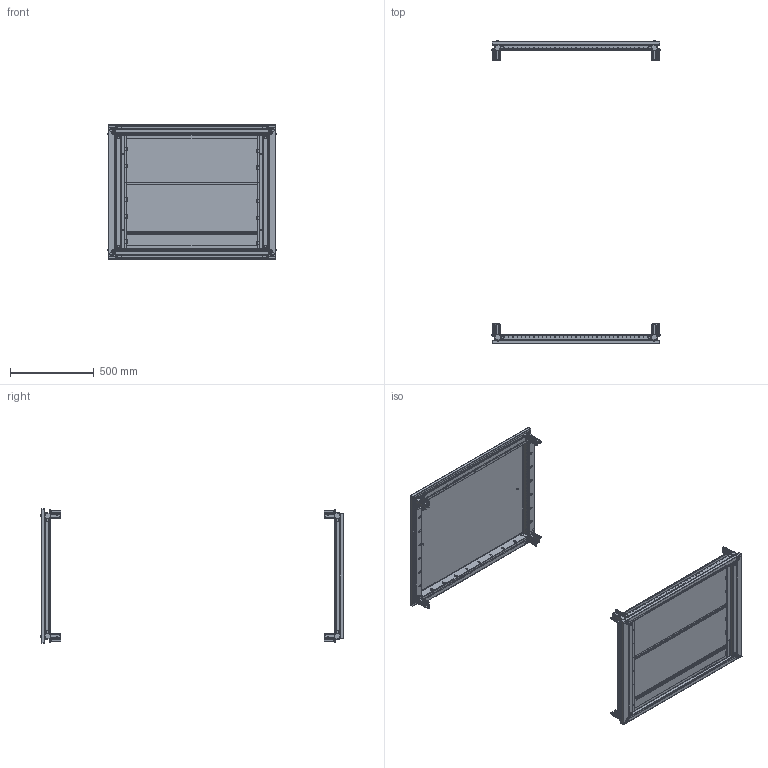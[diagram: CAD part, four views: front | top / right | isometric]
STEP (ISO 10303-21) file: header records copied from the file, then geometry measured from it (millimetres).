
FILE_DESCRIPTION(('CAx-IF Rec.Pracs.---Model Styling and Organization---1.2---2011-12-15','CAx-IF Rec.Pracs.---Geometric and Assembly Validation Properties---4.1---2014-06-16','CAx-IF Rec.Pracs.---PMI Polyline Presentation---2.0---2013-05-24'),'2;1');
FILE_NAME('R5GTB108 (1800).stp','2021-05-06T06:10:40+03:00',(''),(''),'STEP Interface 4.4 by CT CoreTechnologie','3D_Evolution4.4 by CT CoreTechnologie','');
FILE_SCHEMA(('AUTOMOTIVE_DESIGN { 1 0 10303 214 1 1 1 1 }'));
Length unit declared in the file: millimetre
Products named in the file (22): R5KTB108; CBA108; Ac00c561; QB04C035; A0200018; AC00C192; QB01T063; QB01C040; QB01C033; AC00C469S-OLD; AC00C469D-OLD; QB04T014; QB04C021; QB04C016; GUARNIZIONE  TETTI_1000x800; QB04C032; CTE108; A0500003; A0300026; QB03T095; QB03C095_Piegato; AC00C061_AC00C061
Assembly tree (48 placements, depth 4):
  R5KTB108
    CBA108
      Ac00c561  x10
      QB04C035  x2
      A0200018  x4
      AC00C192  x2
      QB01T063
        QB01C040  x2
        QB01C033  x2
        AC00C469S-OLD  x2
        AC00C469D-OLD  x2
      QB04T014
        QB04C021  x2
        QB04C016  x2
        GUARNIZIONE  TETTI_1000x800
      QB04C032
    CTE108
      A0500003  x4
      A0300026  x2
      QB03T095
        GUARNIZIONE  TETTI_1000x800
        QB03C095_Piegato
        AC00C061_AC00C061  x2
      QB01T063
        QB01C040  x2
        QB01C033  x2
        AC00C469S-OLD  x2
        AC00C469D-OLD  x2
Bounding box: 1000.5 x 1806.6 x 799 mm (x, y, z)
Surface area: 5839986 mm2 (no closed solid volume)
Topology: 0 solids, 86 shells, 8188 faces, 21080 edges, 13662 vertices
Faces by surface type: plane 4628, cylinder 2674, bspline 886
Entity records: 76597 total; most frequent: CARTESIAN_POINT 17559, ORIENTED_EDGE 11980, DIRECTION 11794, EDGE_CURVE 5990, VECTOR 4200, LINE 4200, VERTEX_POINT 3924, AXIS2_PLACEMENT_3D 3797
